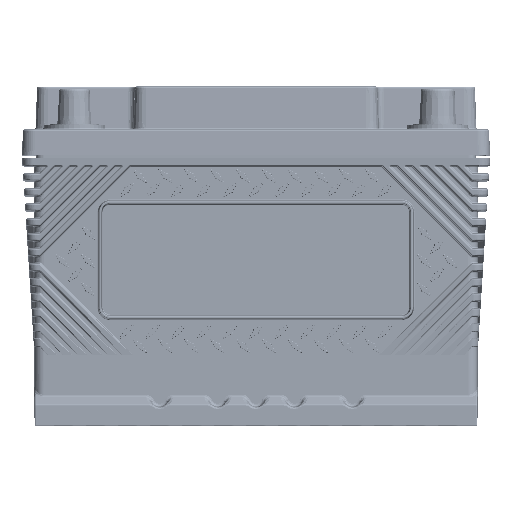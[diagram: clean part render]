
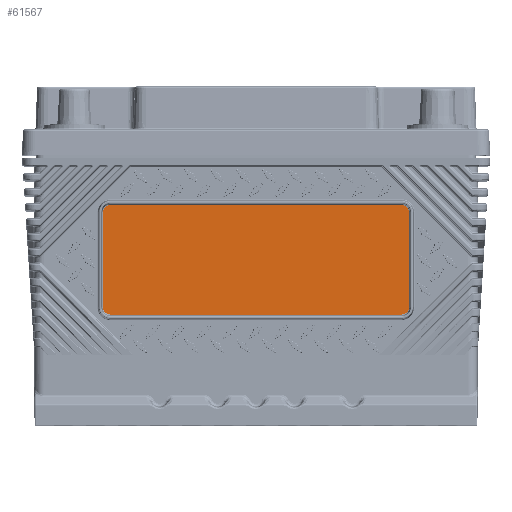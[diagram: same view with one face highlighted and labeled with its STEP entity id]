
A CAD part, top view. The second image highlights one B-rep face of the part: STEP entity #61567.
In plain terms, the highlighted planar face has unit normal (0, -0.001, 1).
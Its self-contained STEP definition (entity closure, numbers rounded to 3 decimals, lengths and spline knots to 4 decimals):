
#2254 = DIRECTION ( 'NONE',  ( 0., -0.001, 1. ) ) ;
#4495 = EDGE_CURVE ( 'NONE', #225693, #180555, #13884, .T. ) ;
#13884 = LINE ( 'NONE', #125140, #197897 ) ;
#17552 = DIRECTION ( 'NONE',  ( 0., 1., 0.001 ) ) ;
#23945 = DIRECTION ( 'NONE',  ( 0., -1., -0.001 ) ) ;
#24687 = VERTEX_POINT ( 'NONE', #87776 ) ;
#25112 = EDGE_LOOP ( 'NONE', ( #52572, #210971, #362108, #234128, #52277, #38639, #298859, #84931 ) ) ;
#27105 = LINE ( 'NONE', #343790, #37191 ) ;
#34607 = DIRECTION ( 'NONE',  ( 0., -1., -0.001 ) ) ;
#35928 = EDGE_CURVE ( 'NONE', #100376, #304509, #331551, .T. ) ;
#37191 = VECTOR ( 'NONE', #280862, 39.3701 ) ;
#37192 = EDGE_CURVE ( 'NONE', #180555, #100376, #284296, .T. ) ;
#37924 = CARTESIAN_POINT ( 'NONE',  ( 2.9615, 2.3865, 3.185 ) ) ;
#38639 = ORIENTED_EDGE ( 'NONE', *, *, #37192, .T. ) ;
#39560 = LINE ( 'NONE', #41381, #139393 ) ;
#41381 = CARTESIAN_POINT ( 'NONE',  ( -3.1042, 0., 3.1825 ) ) ;
#52277 = ORIENTED_EDGE ( 'NONE', *, *, #4495, .T. ) ;
#52572 = ORIENTED_EDGE ( 'NONE', *, *, #131525, .T. ) ;
#59688 = CARTESIAN_POINT ( 'NONE',  ( 2.9615, 4.3245, 3.187 ) ) ;
#61567 = ADVANCED_FACE ( 'NONE', ( #349408 ), #97448, .T. ) ;
#84931 = ORIENTED_EDGE ( 'NONE', *, *, #310461, .T. ) ;
#84995 = CARTESIAN_POINT ( 'NONE',  ( -2.9615, 4.3245, 3.187 ) ) ;
#87776 = CARTESIAN_POINT ( 'NONE',  ( -3.1042, 2.3865, 3.185 ) ) ;
#97448 = PLANE ( 'NONE',  #219031 ) ;
#100376 = VERTEX_POINT ( 'NONE', #221991 ) ;
#101939 = EDGE_CURVE ( 'NONE', #136781, #286100, #27105, .T. ) ;
#102906 = CIRCLE ( 'NONE', #244936, 0.1427 ) ;
#103559 = DIRECTION ( 'NONE',  ( 0., -0.001, 1. ) ) ;
#105386 = DIRECTION ( 'NONE',  ( 0., -1., -0.001 ) ) ;
#107396 = CARTESIAN_POINT ( 'NONE',  ( -4.498, 4.4672, 3.1872 ) ) ;
#118961 = DIRECTION ( 'NONE',  ( 0., -1., -0.001 ) ) ;
#121684 = CARTESIAN_POINT ( 'NONE',  ( -4.498, 0., 3.1825 ) ) ;
#125140 = CARTESIAN_POINT ( 'NONE',  ( 3.1042, 0., 3.1825 ) ) ;
#131525 = EDGE_CURVE ( 'NONE', #311123, #24687, #39560, .T. ) ;
#136781 = VERTEX_POINT ( 'NONE', #146198 ) ;
#137029 = DIRECTION ( 'NONE',  ( 0., -0.001, 1. ) ) ;
#139393 = VECTOR ( 'NONE', #154424, 39.3701 ) ;
#146198 = CARTESIAN_POINT ( 'NONE',  ( -2.9615, 2.2438, 3.1848 ) ) ;
#148688 = CIRCLE ( 'NONE', #272901, 0.1427 ) ;
#149098 = CARTESIAN_POINT ( 'NONE',  ( -2.9615, 4.4672, 3.1872 ) ) ;
#154424 = DIRECTION ( 'NONE',  ( 0., -1., -0.001 ) ) ;
#161205 = CARTESIAN_POINT ( 'NONE',  ( -3.1042, 4.3245, 3.187 ) ) ;
#164635 = CARTESIAN_POINT ( 'NONE',  ( -2.9615, 2.3865, 3.185 ) ) ;
#164816 = DIRECTION ( 'NONE',  ( -1., 0., 0. ) ) ;
#171896 = CARTESIAN_POINT ( 'NONE',  ( 3.1042, 4.3245, 3.187 ) ) ;
#180555 = VERTEX_POINT ( 'NONE', #171896 ) ;
#197897 = VECTOR ( 'NONE', #17552, 39.3701 ) ;
#208346 = DIRECTION ( 'NONE',  ( 0., -1., -0.001 ) ) ;
#210971 = ORIENTED_EDGE ( 'NONE', *, *, #236423, .T. ) ;
#219031 = AXIS2_PLACEMENT_3D ( 'NONE', #121684, #231001, #34607 ) ;
#221991 = CARTESIAN_POINT ( 'NONE',  ( 2.9615, 4.4672, 3.1872 ) ) ;
#225693 = VERTEX_POINT ( 'NONE', #241544 ) ;
#231001 = DIRECTION ( 'NONE',  ( 0., -0.001, 1. ) ) ;
#234128 = ORIENTED_EDGE ( 'NONE', *, *, #305404, .T. ) ;
#236423 = EDGE_CURVE ( 'NONE', #24687, #136781, #248766, .T. ) ;
#241544 = CARTESIAN_POINT ( 'NONE',  ( 3.1042, 2.3865, 3.185 ) ) ;
#244936 = AXIS2_PLACEMENT_3D ( 'NONE', #84995, #137029, #23945 ) ;
#248064 = VECTOR ( 'NONE', #164816, 39.3701 ) ;
#248766 = CIRCLE ( 'NONE', #337332, 0.1427 ) ;
#262106 = DIRECTION ( 'NONE',  ( 0., -0.001, 1. ) ) ;
#272901 = AXIS2_PLACEMENT_3D ( 'NONE', #37924, #262106, #208346 ) ;
#278434 = AXIS2_PLACEMENT_3D ( 'NONE', #59688, #2254, #118961 ) ;
#280862 = DIRECTION ( 'NONE',  ( 1., 0., 0. ) ) ;
#284296 = CIRCLE ( 'NONE', #278434, 0.1427 ) ;
#286100 = VERTEX_POINT ( 'NONE', #323191 ) ;
#298859 = ORIENTED_EDGE ( 'NONE', *, *, #35928, .T. ) ;
#304509 = VERTEX_POINT ( 'NONE', #149098 ) ;
#305404 = EDGE_CURVE ( 'NONE', #286100, #225693, #148688, .T. ) ;
#310461 = EDGE_CURVE ( 'NONE', #304509, #311123, #102906, .T. ) ;
#311123 = VERTEX_POINT ( 'NONE', #161205 ) ;
#323191 = CARTESIAN_POINT ( 'NONE',  ( 2.9615, 2.2438, 3.1848 ) ) ;
#331551 = LINE ( 'NONE', #107396, #248064 ) ;
#337332 = AXIS2_PLACEMENT_3D ( 'NONE', #164635, #103559, #105386 ) ;
#343790 = CARTESIAN_POINT ( 'NONE',  ( -4.498, 2.2438, 3.1848 ) ) ;
#349408 = FACE_OUTER_BOUND ( 'NONE', #25112, .T. ) ;
#362108 = ORIENTED_EDGE ( 'NONE', *, *, #101939, .T. ) ;
